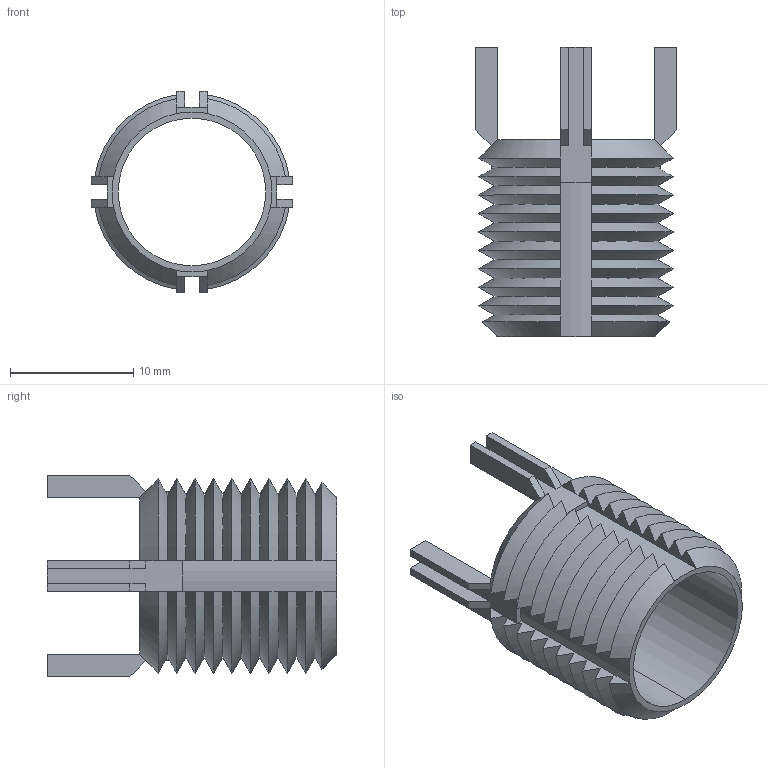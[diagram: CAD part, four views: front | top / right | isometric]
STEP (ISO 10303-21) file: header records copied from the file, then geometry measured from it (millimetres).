
FILE_DESCRIPTION (( 'STEP AP203' ), '1' );
FILE_NAME ('TR1520.65156.step', '2023-03-31T08:47:39', ( '' ), ( '' ), 'SwSTEP 2.0', 'SolidWorks 2019', '' );
FILE_SCHEMA (( 'CONFIG_CONTROL_DESIGN' ));
Length unit declared in the file: millimetre
Products named in the file (1): TR1520.65156
Bounding box: 16.36 x 23.5 x 16.36 mm (x, y, z)
Volume: 859 mm3; surface area: 2343.4 mm2
Topology: 1 solids, 1 shells, 160 faces, 434 edges, 276 vertices
Faces by surface type: cone 80, plane 74, cylinder 6
Entity records: 5239 total; most frequent: CARTESIAN_POINT 1423, ORIENTED_EDGE 868, DIRECTION 668, EDGE_CURVE 434, VERTEX_POINT 276, AXIS2_PLACEMENT_3D 257, B_SPLINE_CURVE_WITH_KNOTS 184, EDGE_LOOP 162
